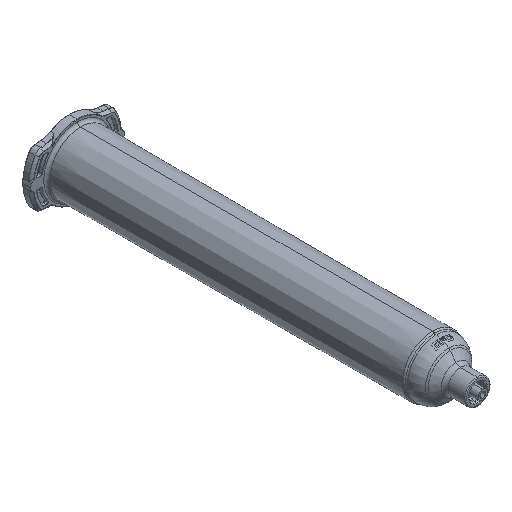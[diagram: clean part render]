
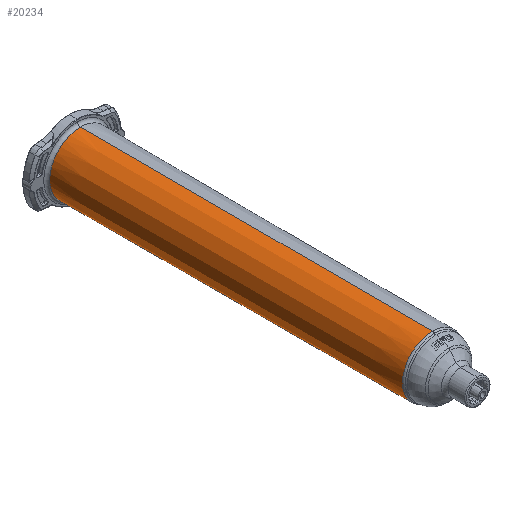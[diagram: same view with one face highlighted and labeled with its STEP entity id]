
A CAD part, isometric view. The second image highlights one B-rep face of the part: STEP entity #20234.
In plain terms, the highlighted conical face has half-angle 0.133 degrees and reference radius 12.698 mm.
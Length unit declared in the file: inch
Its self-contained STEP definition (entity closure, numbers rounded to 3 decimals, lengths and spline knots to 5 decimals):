
#922 = DIRECTION ( 'NONE',  ( 0., 0., -1. ) ) ;
#1009 = DIRECTION ( 'NONE',  ( 0., 1., 0. ) ) ;
#1316 = AXIS2_PLACEMENT_3D ( 'NONE', #18842, #14968, #5651 ) ;
#1604 = DIRECTION ( 'NONE',  ( 0., 1., 0. ) ) ;
#1977 = CIRCLE ( 'NONE', #1316, 0.51356 ) ;
#2561 = VERTEX_POINT ( 'NONE', #20966 ) ;
#3076 = DIRECTION ( 'NONE',  ( 0., 1., 0.002 ) ) ;
#3619 = DIRECTION ( 'NONE',  ( 0., 0., 1. ) ) ;
#3623 = EDGE_LOOP ( 'NONE', ( #12309, #23774, #22280, #4986 ) ) ;
#3650 = VERTEX_POINT ( 'NONE', #8689 ) ;
#4986 = ORIENTED_EDGE ( 'NONE', *, *, #12429, .T. ) ;
#5410 = CARTESIAN_POINT ( 'NONE',  ( 0., 0.83532, -0.4999 ) ) ;
#5651 = DIRECTION ( 'NONE',  ( 0., 0., 1. ) ) ;
#8689 = CARTESIAN_POINT ( 'NONE',  ( 0., 0.84118, 0.49992 ) ) ;
#8806 = VERTEX_POINT ( 'NONE', #21217 ) ;
#9232 = VERTEX_POINT ( 'NONE', #17866 ) ;
#10200 = EDGE_CURVE ( 'NONE', #9232, #3650, #20034, .T. ) ;
#10673 = CARTESIAN_POINT ( 'NONE',  ( 0., 0.83532, 0.4999 ) ) ;
#11466 = CARTESIAN_POINT ( 'NONE',  ( 0., 0.83532, 0. ) ) ;
#12309 = ORIENTED_EDGE ( 'NONE', *, *, #12470, .F. ) ;
#12429 = EDGE_CURVE ( 'NONE', #8806, #2561, #1977, .T. ) ;
#12470 = EDGE_CURVE ( 'NONE', #9232, #2561, #18328, .T. ) ;
#12522 = CARTESIAN_POINT ( 'NONE',  ( 0., 0.84118, 0. ) ) ;
#13186 = VECTOR ( 'NONE', #22801, 39.37008 ) ;
#14926 = VECTOR ( 'NONE', #3076, 39.37008 ) ;
#14968 = DIRECTION ( 'NONE',  ( 0., -1., 0. ) ) ;
#15119 = AXIS2_PLACEMENT_3D ( 'NONE', #11466, #1604, #3619 ) ;
#15641 = FACE_OUTER_BOUND ( 'NONE', #3623, .T. ) ;
#17254 = AXIS2_PLACEMENT_3D ( 'NONE', #12522, #1009, #922 ) ;
#17356 = EDGE_CURVE ( 'NONE', #3650, #8806, #24578, .T. ) ;
#17866 = CARTESIAN_POINT ( 'NONE',  ( 0., 0.84118, -0.49992 ) ) ;
#18328 = LINE ( 'NONE', #5410, #13186 ) ;
#18842 = CARTESIAN_POINT ( 'NONE',  ( 0., 6.72012, 0. ) ) ;
#18967 = CONICAL_SURFACE ( 'NONE', #15119, 0.4999, 0.002 ) ;
#20034 = CIRCLE ( 'NONE', #17254, 0.49992 ) ;
#20234 = ADVANCED_FACE ( 'NONE', ( #15641 ), #18967, .T. ) ;
#20966 = CARTESIAN_POINT ( 'NONE',  ( 0., 6.72012, -0.51356 ) ) ;
#21217 = CARTESIAN_POINT ( 'NONE',  ( 0., 6.72012, 0.51356 ) ) ;
#22280 = ORIENTED_EDGE ( 'NONE', *, *, #17356, .T. ) ;
#22801 = DIRECTION ( 'NONE',  ( 0., 1., -0.002 ) ) ;
#23774 = ORIENTED_EDGE ( 'NONE', *, *, #10200, .T. ) ;
#24578 = LINE ( 'NONE', #10673, #14926 ) ;
